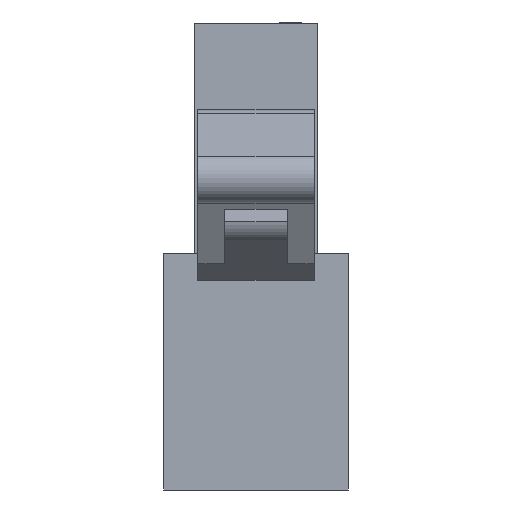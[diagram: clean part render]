
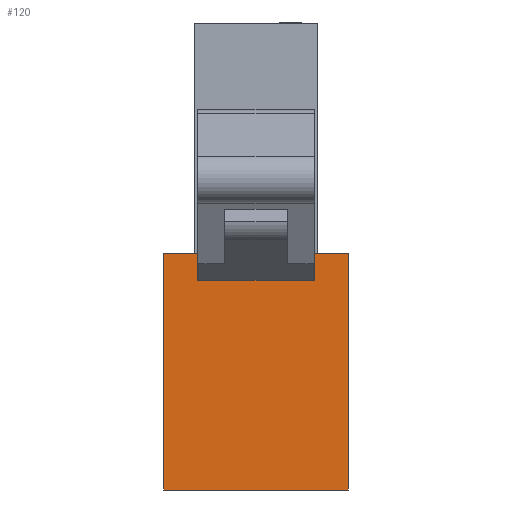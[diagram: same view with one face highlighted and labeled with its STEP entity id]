
A CAD part, left-side view. The second image highlights one B-rep face of the part: STEP entity #120.
In plain terms, the highlighted planar face has unit normal (-1, 0, 0).
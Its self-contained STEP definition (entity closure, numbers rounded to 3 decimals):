
#120=ADVANCED_FACE('',(#262),#199,.F.);
#199=PLANE('',#1543);
#262=FACE_OUTER_BOUND('',#332,.T.);
#332=EDGE_LOOP('',(#438,#439,#440,#441,#442,#443,#444,#445));
#438=ORIENTED_EDGE('',*,*,#1002,.F.);
#439=ORIENTED_EDGE('',*,*,#1003,.F.);
#440=ORIENTED_EDGE('',*,*,#1004,.T.);
#441=ORIENTED_EDGE('',*,*,#1005,.F.);
#442=ORIENTED_EDGE('',*,*,#1006,.F.);
#443=ORIENTED_EDGE('',*,*,#1007,.T.);
#444=ORIENTED_EDGE('',*,*,#1008,.T.);
#445=ORIENTED_EDGE('',*,*,#1009,.F.);
#856=VERTEX_POINT('',#2059);
#857=VERTEX_POINT('',#2060);
#858=VERTEX_POINT('',#2062);
#859=VERTEX_POINT('',#2064);
#860=VERTEX_POINT('',#2066);
#861=VERTEX_POINT('',#2068);
#862=VERTEX_POINT('',#2070);
#863=VERTEX_POINT('',#2072);
#1002=EDGE_CURVE('',#856,#857,#1213,.T.);
#1003=EDGE_CURVE('',#858,#856,#1214,.T.);
#1004=EDGE_CURVE('',#858,#859,#1215,.T.);
#1005=EDGE_CURVE('',#860,#859,#1216,.T.);
#1006=EDGE_CURVE('',#861,#860,#1217,.T.);
#1007=EDGE_CURVE('',#861,#862,#1218,.T.);
#1008=EDGE_CURVE('',#862,#863,#1219,.T.);
#1009=EDGE_CURVE('',#857,#863,#1220,.T.);
#1213=LINE('',#2058,#1382);
#1214=LINE('',#2061,#1383);
#1215=LINE('',#2063,#1384);
#1216=LINE('',#2065,#1385);
#1217=LINE('',#2067,#1386);
#1218=LINE('',#2069,#1387);
#1219=LINE('',#2071,#1388);
#1220=LINE('',#2073,#1389);
#1382=VECTOR('',#1667,1.);
#1383=VECTOR('',#1668,1.);
#1384=VECTOR('',#1669,1.);
#1385=VECTOR('',#1670,1.);
#1386=VECTOR('',#1671,1.);
#1387=VECTOR('',#1672,1.);
#1388=VECTOR('',#1673,1.);
#1389=VECTOR('',#1674,1.);
#1543=AXIS2_PLACEMENT_3D('',#2074,#1675,#1676);
#1667=DIRECTION('',(0.,0.,1.));
#1668=DIRECTION('',(0.,-1.,0.));
#1669=DIRECTION('',(0.,0.,1.));
#1670=DIRECTION('',(0.,-1.,0.));
#1671=DIRECTION('',(0.,0.,1.));
#1672=DIRECTION('',(0.,-1.,0.));
#1673=DIRECTION('',(0.,0.,1.));
#1674=DIRECTION('',(0.,-1.,0.));
#1675=DIRECTION('',(1.,0.,0.));
#1676=DIRECTION('',(0.,1.,0.));
#2058=CARTESIAN_POINT('',(-7.495,-2.375,9.65));
#2059=CARTESIAN_POINT('',(-7.495,-2.375,8.565));
#2060=CARTESIAN_POINT('',(-7.495,-2.375,9.65));
#2061=CARTESIAN_POINT('',(-7.495,3.76,8.565));
#2062=CARTESIAN_POINT('',(-7.495,2.375,8.565));
#2063=CARTESIAN_POINT('',(-7.495,2.375,9.65));
#2064=CARTESIAN_POINT('',(-7.495,2.375,9.65));
#2065=CARTESIAN_POINT('',(-7.495,3.76,9.65));
#2066=CARTESIAN_POINT('',(-7.495,3.76,9.65));
#2067=CARTESIAN_POINT('',(-7.495,3.76,9.65));
#2068=CARTESIAN_POINT('',(-7.495,3.76,0.));
#2069=CARTESIAN_POINT('',(-7.495,3.76,0.));
#2070=CARTESIAN_POINT('',(-7.495,-3.76,0.));
#2071=CARTESIAN_POINT('',(-7.495,-3.76,9.65));
#2072=CARTESIAN_POINT('',(-7.495,-3.76,9.65));
#2073=CARTESIAN_POINT('',(-7.495,3.76,9.65));
#2074=CARTESIAN_POINT('',(-7.495,3.76,9.65));
